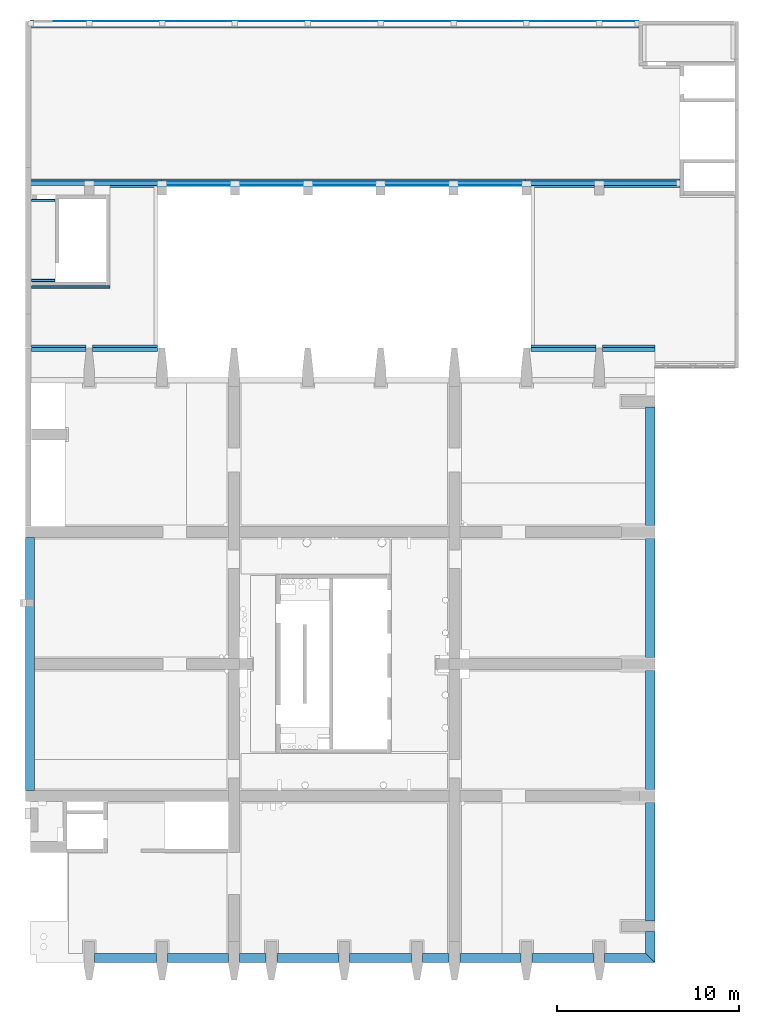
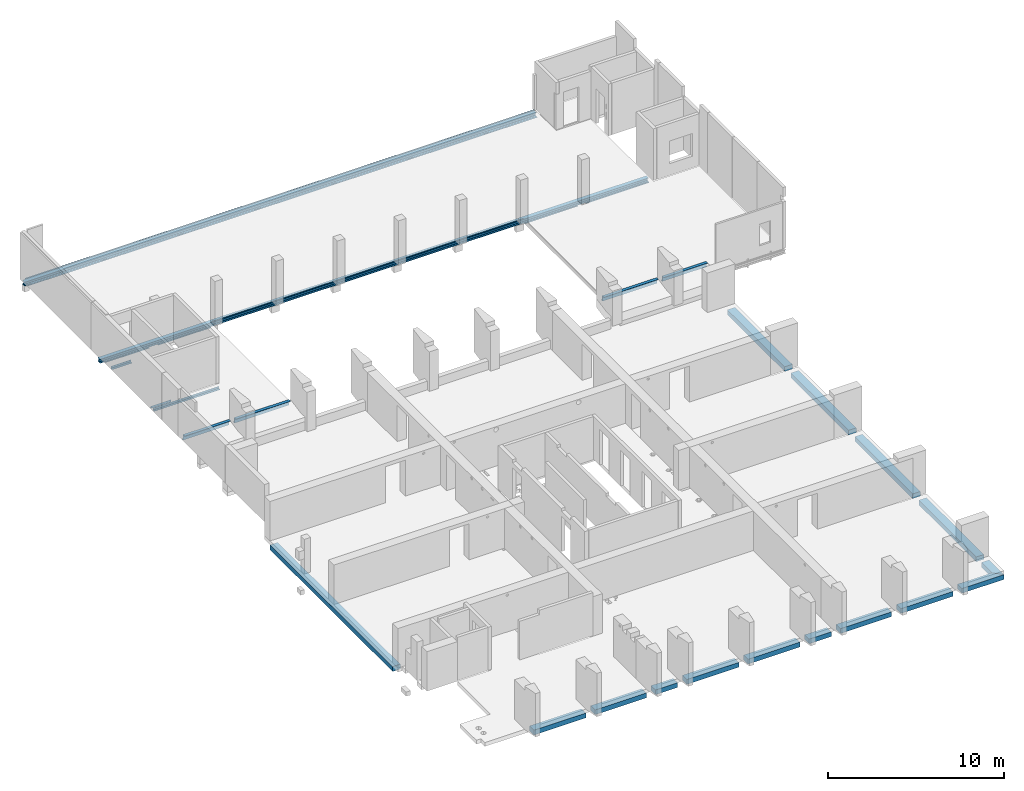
# One storey, part 2 of 10: 16 beams.
"""IFC2X3 building model written with IfcOpenShell, lengths in millimetres."""

from ifc_helpers import new_model, entity, si_unit, converted_unit, derived_unit, direction, frame, frame_2d, origin, origin_2d_with_axis, place, context, subcontext, project, spatial, polyline, circle_curve, parameter, trimmed, segment, composite_curve, rectangle, outline, extrude, source, transform, mapped, material, type_object, type_shapes, element, save


model = new_model("IFC2X3")

# Units and contexts
model_context = context("Model", 3, precision=0.01, world=origin(), true_north=direction((6.12303176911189e-17, 1.0)))
body_context = subcontext(model_context, "Body", "Model", "MODEL_VIEW")
ifc_project = project(units=[si_unit("LENGTHUNIT", "METRE", prefix="MILLI"), si_unit("AREAUNIT", "SQUARE_METRE"), si_unit("VOLUMEUNIT", "CUBIC_METRE"), converted_unit("PLANEANGLEUNIT", "DEGREE", entity("IfcRatioMeasure", 0.0174532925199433), si_unit("PLANEANGLEUNIT", "RADIAN"), dimensions=[0, 0, 0, 0, 0, 0, 0]), si_unit("MASSUNIT", "GRAM", prefix="KILO"), derived_unit("MASSDENSITYUNIT", [(si_unit("MASSUNIT", "GRAM", prefix="KILO"), 1), (si_unit("LENGTHUNIT", "METRE"), -3)]), si_unit("TIMEUNIT", "SECOND"), si_unit("FREQUENCYUNIT", "HERTZ"), si_unit("THERMODYNAMICTEMPERATUREUNIT", "DEGREE_CELSIUS"), derived_unit("THERMALTRANSMITTANCEUNIT", [(si_unit("MASSUNIT", "GRAM", prefix="KILO"), 1), (si_unit("THERMODYNAMICTEMPERATUREUNIT", "KELVIN"), -1), (si_unit("TIMEUNIT", "SECOND"), -3)]), derived_unit("VOLUMETRICFLOWRATEUNIT", [(si_unit("LENGTHUNIT", "METRE"), 3), (si_unit("TIMEUNIT", "SECOND"), -1)]), si_unit("ELECTRICCURRENTUNIT", "AMPERE"), si_unit("ELECTRICVOLTAGEUNIT", "VOLT"), si_unit("POWERUNIT", "WATT"), si_unit("FORCEUNIT", "NEWTON", prefix="KILO"), si_unit("ILLUMINANCEUNIT", "LUX"), si_unit("LUMINOUSFLUXUNIT", "LUMEN"), si_unit("LUMINOUSINTENSITYUNIT", "CANDELA"), derived_unit("USERDEFINED", [(si_unit("MASSUNIT", "GRAM", prefix="KILO"), -1), (si_unit("LENGTHUNIT", "METRE"), -2), (si_unit("TIMEUNIT", "SECOND"), 3), (si_unit("LUMINOUSFLUXUNIT", "LUMEN"), 1)]), derived_unit("LINEARVELOCITYUNIT", [(si_unit("LENGTHUNIT", "METRE"), 1), (si_unit("TIMEUNIT", "SECOND"), -1)]), si_unit("PRESSUREUNIT", "PASCAL"), derived_unit("USERDEFINED", [(si_unit("LENGTHUNIT", "METRE"), -2), (si_unit("MASSUNIT", "GRAM", prefix="KILO"), 1), (si_unit("TIMEUNIT", "SECOND"), -2)])], contexts=[model_context])

# Site, building, storey
site_placement = place(None, origin())
site = spatial("IfcSite", under=ifc_project, at=site_placement, Name="Default", CompositionType="ELEMENT")
building_placement = place(site_placement, origin())
building = spatial("IfcBuilding", under=site, at=building_placement, Name="niet gebruiken", CompositionType="ELEMENT")
storey_placement = place(building_placement, frame((0.0, 0.0, 9000.0)))
storey = spatial("IfcBuildingStorey", under=building, at=storey_placement, Name="02 tweede verdieping", CompositionType="ELEMENT", Elevation=9000.00000000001)

# Beams
ifc_material_1 = material(Name="NLRS_f2_beton ihwg")
beam_type_1 = type_object("IfcBeamType", Name="500x600", PredefinedType="BEAM", material=ifc_material_1)
beam_1_placement = place(storey_placement, frame((124500.0, 24450.0, -90.0), z_axis=(0.0, 0.0, 1.0), x_axis=(0.0, -1.0, 0.0)))
element("IfcBeam", 1, at=beam_1_placement, inside=storey, type_object=beam_type_1, material=ifc_material_1, Name="NLRS_28.11_SF_WPB_betonbalk ihwg recht_gen:500x600", ObjectType="NLRS_28.11_SF_WPB_betonbalk ihwg recht_gen:500x600", context=body_context, shape_type="SweptSolid", body=[
    extrude(rectangle(XDim=329.999999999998, YDim=499.99999999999, at=frame_2d((-5.40012479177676e-13, 0.0), x_axis=(1.0, 0.0))), frame((0.0, 0.0, -435.0), z_axis=(1.0, 0.0, 0.0), x_axis=(0.0, 0.0, -1.0)), (0.0, 0.0, 1.0), 13900.0),
])
beam_type_2 = type_object("IfcBeamType", Name="500x600", PredefinedType="BEAM", material=ifc_material_1)
shared_shape_1 = source(origin(), body_context, "Body", "SweptSolid", [
    extrude(rectangle(XDim=6499.99999999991, YDim=499.99999999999, at=frame_2d((2.27373675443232e-12, -1.73230318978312e-11), x_axis=(1.0, 0.0))), frame((158550.0, 28350.0, 8310.0), z_axis=(0.0, 0.0, 1.0), x_axis=(0.0, -1.0, 0.0)), (0.0, 0.0, 1.0), 329.999999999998),
    extrude(rectangle(XDim=6500.00000000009, YDim=500.000000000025, at=frame_2d((1.13686837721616e-12, 0.0), x_axis=(1.0, 0.0))), frame((158550.0, 6650.0, 8310.0), z_axis=(0.0, 0.0, 1.0), x_axis=(0.0, 1.0, 0.0)), (0.0, 0.0, 1.0), 329.999999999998),
    extrude(outline(polyline([(-718.0, -250.0), (468.0, -250.0), (968.0, 250.0), (-718.0, 250.0), (-718.0, -250.0)])), frame((158550.0, 2082.0, 8310.0), z_axis=(0.0, 0.0, 1.0), x_axis=(0.0, -1.0, 0.0)), (0.0, 0.0, 1.0), 329.999999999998),
    extrude(rectangle(XDim=6550.0, YDim=500.000000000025, at=frame_2d((2.27373675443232e-12, 0.0), x_axis=(1.0, 0.0))), frame((158550.0, 13875.0, 8310.0), z_axis=(0.0, 0.0, 1.0), x_axis=(0.0, 1.0, 0.0)), (0.0, 0.0, 1.0), 329.999999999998),
    extrude(rectangle(XDim=6549.99999999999, YDim=500.000000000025, at=frame_2d((1.13686837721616e-12, 0.0), x_axis=(1.0, 0.0))), frame((158550.0, 21125.0, 8310.0), z_axis=(0.0, 0.0, 1.0), x_axis=(0.0, 1.0, 0.0)), (0.0, 0.0, 1.0), 329.999999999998),
])
type_shapes(beam_type_2, [shared_shape_1])
beam_2_placement = place(storey_placement, frame((0.0, 0.0, -9000.0)))
element("IfcBeam", 2, at=beam_2_placement, inside=storey, type_object=beam_type_2, material=ifc_material_1, Name="NLRS_28.11_SF_WPB_betonbalk ihwg recht_gen:500x600", ObjectType="500x600", context=body_context, shape_type="MappedRepresentation", body=[
    mapped(shared_shape_1, transform((0.0, 0.0, 0.0), scale=1.0)),
])
beam_type_3 = type_object("IfcBeamType", Name="500x600", PredefinedType="BEAM", material=ifc_material_1)
shared_shape_2 = source(origin(), body_context, "Body", "SweptSolid", [
    extrude(outline(polyline([(-1000.0, -250.0), (1250.0, -250.0), (1250.0, 250.0), (-1500.0, 250.0), (-1000.0, -250.0)])), frame((157300.0, 1364.0, 8310.0), z_axis=(0.0, 0.0, 1.0), x_axis=(-1.0, 0.0, 0.0)), (0.0, 0.0, 1.0), 329.999999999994),
    extrude(rectangle(XDim=500.0, YDim=3400.00000000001, at=frame_2d((0.0, -8.64019966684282e-12), x_axis=(1.0, 0.0))), frame((129750.0, 1364.0, 8310.0), z_axis=(0.0, 0.0, 1.0), x_axis=(0.0, 1.0, 0.0)), (0.0, 0.0, 1.0), 329.999999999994),
    extrude(rectangle(XDim=3350.0, YDim=500.0, at=frame_2d((1.72803993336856e-11, -7.105427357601e-14), x_axis=(1.0, 0.0))), frame((133725.0, 1364.0, 8310.0)), (0.0, 0.0, 1.0), 329.999999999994),
    extrude(rectangle(XDim=1450.0, YDim=500.0, at=frame_2d((8.69704308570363e-12, 0.0), x_axis=(1.0, 0.0))), frame((136725.0, 1364.0, 8310.0)), (0.0, 0.0, 1.0), 329.999999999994),
    extrude(rectangle(XDim=3399.99999999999, YDim=500.0, at=origin_2d_with_axis()), frame((139750.0, 1364.0, 8310.0)), (0.0, 0.0, 1.0), 329.999999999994),
    extrude(rectangle(XDim=3400.00000000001, YDim=500.0, at=frame_2d((8.64019966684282e-12, 0.0), x_axis=(1.0, 0.0))), frame((143750.0, 1364.0, 8310.0)), (0.0, 0.0, 1.0), 329.999999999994),
    extrude(rectangle(XDim=1449.99999999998, YDim=500.0, at=origin_2d_with_axis()), frame((146775.0, 1364.0, 8310.0)), (0.0, 0.0, 1.0), 329.999999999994),
    extrude(rectangle(XDim=3350.0, YDim=500.0, at=frame_2d((0.0, -1.27897692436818e-13), x_axis=(1.0, 0.0))), frame((149775.0, 1364.0, 8310.0), z_axis=(0.0, 0.0, 1.0), x_axis=(-1.0, 0.0, 0.0)), (0.0, 0.0, 1.0), 329.999999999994),
    extrude(rectangle(XDim=3400.00000000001, YDim=500.0, at=frame_2d((8.64019966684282e-12, 7.105427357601e-14), x_axis=(1.0, 0.0))), frame((153750.0, 1364.0, 8310.0)), (0.0, 0.0, 1.0), 329.999999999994),
])
type_shapes(beam_type_3, [shared_shape_2])
beam_3_placement = place(storey_placement, frame((0.0, 0.0, -9000.0)))
element("IfcBeam", 3, at=beam_3_placement, inside=storey, type_object=beam_type_3, material=ifc_material_1, Name="NLRS_28.11_SF_WPB_betonbalk ihwg recht_gen:500x600", ObjectType="500x600", context=body_context, shape_type="MappedRepresentation", body=[
    mapped(shared_shape_2, transform((0.0, 0.0, 0.0), scale=1.0)),
])
ifc_material_2 = material(Name="NLRS_h2_staal")
beam_type_4 = type_object("IfcBeamType", Name="ligger SFB250 HE260A+355x12", PredefinedType="BEAM", material=ifc_material_2)
shared_shape_3 = source(origin(), body_context, "Body", "SweptSolid", [
    extrude(outline(polyline([(-205.0, -11223.3333333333), (55.0, -11223.3333333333), (55.0, -11053.3333333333), (150.0, -11053.3333333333), (150.0, 22276.6666666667), (-205.0, 22276.6666666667), (-205.0, -11223.3333333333)])), frame((135623.333333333, 52570.0, 9468.0), z_axis=(0.0, 0.0, 1.0), x_axis=(0.0, -1.0, 0.0)), (0.0, 0.0, 1.0), 11.9999999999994),
    extrude(outline(composite_curve([segment(polyline([(112.5, -130.0), (125.0, -130.0)]), True, "CONTINUOUS"), segment(polyline([(125.0, -130.0), (125.0, 130.0)]), True, "CONTINUOUS"), segment(polyline([(125.0, 130.0), (112.5, 130.0)]), True, "CONTINUOUS"), segment(polyline([(112.5, 130.0), (112.5, 27.75)]), True, "CONTINUOUS"), segment(trimmed(circle_curve(frame_2d((88.5, 27.75), x_axis=(0.0, -1.0)), 24.0), [parameter(3.05333249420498e-13)], [parameter(90.0000000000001)], True, "PARAMETER"), False, "CONTINUOUS"), segment(polyline([(88.5, 3.75000000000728), (-88.5, 3.75000000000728)]), True, "CONTINUOUS"), segment(trimmed(circle_curve(frame_2d((-88.5, 27.75), x_axis=(-1.0, 0.0)), 24.0), [parameter(3.56222124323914e-13)], [parameter(90.0000000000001)], True, "PARAMETER"), False, "CONTINUOUS"), segment(polyline([(-112.5, 27.75), (-112.5, 130.0)]), True, "CONTINUOUS"), segment(polyline([(-112.5, 130.0), (-125.0, 130.0)]), True, "CONTINUOUS"), segment(polyline([(-125.0, 130.0), (-125.0, -130.0)]), True, "CONTINUOUS"), segment(polyline([(-125.0, -130.0), (-112.5, -130.0)]), True, "CONTINUOUS"), segment(polyline([(-112.5, -130.0), (-112.5, -27.7499999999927)]), True, "CONTINUOUS"), segment(trimmed(circle_curve(frame_2d((-88.5, -27.7499999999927), x_axis=(0.0, 1.0)), 24.0), [parameter(0.0)], [parameter(90.0000000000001)], True, "PARAMETER"), False, "CONTINUOUS"), segment(polyline([(-88.5, -3.75), (88.5, -3.75)]), True, "CONTINUOUS"), segment(trimmed(circle_curve(frame_2d((88.5, -27.7499999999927), x_axis=(1.0, 0.0)), 24.0), [parameter(0.0)], [parameter(90.0000000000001)], True, "PARAMETER"), False, "CONTINUOUS"), segment(polyline([(112.5, -27.7499999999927), (112.5, -130.0)]), True, "CONTINUOUS")], self_intersect=False)), frame((124400.0, 52645.0, 9605.0), z_axis=(1.0, 0.0, 0.0), x_axis=(0.0, 0.0, 1.0)), (0.0, 0.0, 1.0), 33500.0),
])
type_shapes(beam_type_4, [shared_shape_3])
beam_4_placement = place(storey_placement, frame((0.0, 0.0, -9000.0)))
element("IfcBeam", 4, at=beam_4_placement, inside=storey, type_object=beam_type_4, material=ifc_material_2, Name="NLRS_28.11_SF_WPB_stalen ligger SFB_gen_BSc:ligger SFB250 HE260A+355x12", ObjectType="ligger SFB250 HE260A+355x12", context=body_context, shape_type="MappedRepresentation", body=[
    mapped(shared_shape_3, transform((0.0, 0.0, 0.0), scale=1.0)),
])
beam_type_5 = type_object("IfcBeamType", Name="ligger SFB260 HE260B+375x12", PredefinedType="BEAM", material=ifc_material_2)
shared_shape_4 = source(origin(), body_context, "Body", "SweptSolid", [
    extrude(outline(composite_curve([segment(polyline([(-130.0, -112.5), (-130.0, -130.0)]), True, "CONTINUOUS"), segment(polyline([(-130.0, -130.0), (130.0, -130.0)]), True, "CONTINUOUS"), segment(polyline([(130.0, -130.0), (130.0, -112.5)]), True, "CONTINUOUS"), segment(polyline([(130.0, -112.5), (29.0, -112.5)]), True, "CONTINUOUS"), segment(trimmed(circle_curve(frame_2d((29.0, -88.5), x_axis=(1.0, 0.0)), 24.0), [parameter(180.000000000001)], [parameter(270.0)], True, "PARAMETER"), False, "CONTINUOUS"), segment(polyline([(5.0, -88.5), (5.0, 88.5)]), True, "CONTINUOUS"), segment(trimmed(circle_curve(frame_2d((29.0, 88.5), x_axis=(1.0, 0.0)), 24.0), [parameter(90.0000000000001)], [parameter(180.0)], True, "PARAMETER"), False, "CONTINUOUS"), segment(polyline([(29.0, 112.5), (130.0, 112.5)]), True, "CONTINUOUS"), segment(polyline([(130.0, 112.5), (130.0, 130.0)]), True, "CONTINUOUS"), segment(polyline([(130.0, 130.0), (-130.0, 130.0)]), True, "CONTINUOUS"), segment(polyline([(-130.0, 130.0), (-130.0, 112.5)]), True, "CONTINUOUS"), segment(polyline([(-130.0, 112.5), (-29.0, 112.5)]), True, "CONTINUOUS"), segment(trimmed(circle_curve(frame_2d((-29.0, 88.5), x_axis=(1.0, 0.0)), 24.0), [parameter(3.56222124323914e-13)], [parameter(90.0000000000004)], True, "PARAMETER"), False, "CONTINUOUS"), segment(polyline([(-5.0, 88.5), (-5.0, -88.5)]), True, "CONTINUOUS"), segment(trimmed(circle_curve(frame_2d((-29.0, -88.5), x_axis=(1.0, 0.0)), 24.0), [parameter(270.0)], [parameter(3.56222124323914e-13)], True, "PARAMETER"), False, "CONTINUOUS"), segment(polyline([(-29.0, -112.5), (-130.0, -112.5)]), True, "CONTINUOUS")], self_intersect=False)), frame((131760.0, 43890.0, 9610.0), z_axis=(-1.0, 0.0, 0.0), x_axis=(0.0, 1.0, 0.0)), (0.0, 0.0, -1.0), 19980.0),
    extrude(rectangle(XDim=19980.0, YDim=375.000000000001, at=origin_2d_with_axis()), frame((141750.0, 43947.5, 9468.0), z_axis=(0.0, 0.0, 1.0), x_axis=(-1.0, 0.0, 0.0)), (0.0, 0.0, 1.0), 11.9999999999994),
])
type_shapes(beam_type_5, [shared_shape_4])
beam_5_placement = place(storey_placement, frame((0.0, 0.0, -9000.0)))
element("IfcBeam", 5, at=beam_5_placement, inside=storey, type_object=beam_type_5, material=ifc_material_2, Name="NLRS_28.11_SF_WPB_stalen ligger SFB_gen_BSc:ligger SFB260 HE260B+375x12", ObjectType="ligger SFB260 HE260B+375x12", context=body_context, shape_type="MappedRepresentation", body=[
    mapped(shared_shape_4, transform((0.0, 0.0, 0.0), scale=1.0)),
])
beam_type_6 = type_object("IfcBeamType", Name="NLRS_28.11_SF_WPB_stalen ligger hoekprofiel gelijkzijdig_gen:ligger gelijzijdig hoekprofiel LEQU_150x150x15", PredefinedType="BEAM")
beam_6_placement = place(storey_placement, frame((128880.0, 38227.5000000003, 542.0), z_axis=(0.0, 0.0, 1.0), x_axis=(-1.0, 0.0, 0.0)))
element("IfcBeam", 6, at=beam_6_placement, inside=storey, type_object=beam_type_6, material=ifc_material_2, Name="NLRS_28.11_SF_WPB_stalen ligger hoekprofiel gelijkzijdig_gen:ligger gelijzijdig hoekprofiel LEQU_150x150x15", ObjectType="NLRS_28.11_SF_WPB_stalen ligger hoekprofiel gelijkzijdig_gen:ligger gelijzijdig hoekprofiel LEQU_150x150x15", context=body_context, shape_type="SweptSolid", body=[
    extrude(outline(composite_curve([segment(polyline([(-93.3333333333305, -56.6666666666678), (56.6666666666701, -56.6666666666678)]), True, "CONTINUOUS"), segment(polyline([(56.6666666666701, -56.6666666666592), (56.6666666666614, 93.3333333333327)]), True, "CONTINUOUS"), segment(polyline([(56.6666666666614, 93.3333333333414), (49.6666666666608, 93.3333333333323)]), True, "CONTINUOUS"), segment(trimmed(circle_curve(frame_2d((49.6666666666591, 85.3333333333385), x_axis=(0.0, 1.0)), 7.99999999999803), [parameter(0.0)], [parameter(90.0000000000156)], True, "PARAMETER"), True, "CONTINUOUS"), segment(polyline([(41.666666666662, 85.333333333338), (41.6666666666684, -25.6666666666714)]), True, "CONTINUOUS"), segment(trimmed(circle_curve(frame_2d((25.6666666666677, -25.6666666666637), x_axis=(1.0, 0.0)), 16.0000000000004), [parameter(270.0)], [parameter(0.0)], True, "PARAMETER"), False, "CONTINUOUS"), segment(polyline([(25.6666666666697, -41.66666666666), (-85.333333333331, -41.6666666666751)]), True, "CONTINUOUS"), segment(trimmed(circle_curve(frame_2d((-85.3333333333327, -49.666666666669), x_axis=(0.0, 1.0)), 7.99999999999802), [parameter(0.0)], [parameter(90.0000000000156)], True, "PARAMETER"), True, "CONTINUOUS"), segment(polyline([(-93.3333333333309, -49.6666666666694), (-93.3333333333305, -56.6666666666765)]), True, "CONTINUOUS")], self_intersect=False)), frame((0.0, 14.1666666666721, -18.3333333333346), z_axis=(1.0, 0.0, 0.0), x_axis=(0.0, 0.0, -1.0)), (0.0, 0.0, 1.0), 4310.00000000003),
])
beam_7_placement = place(storey_placement, frame((124570.0, 42987.5, 542.0)))
element("IfcBeam", 7, at=beam_7_placement, inside=storey, type_object=beam_type_6, material=ifc_material_2, Name="NLRS_28.11_SF_WPB_stalen ligger hoekprofiel gelijkzijdig_gen:ligger gelijzijdig hoekprofiel LEQU_150x150x15", ObjectType="NLRS_28.11_SF_WPB_stalen ligger hoekprofiel gelijkzijdig_gen:ligger gelijzijdig hoekprofiel LEQU_150x150x15", context=body_context, shape_type="SweptSolid", body=[
    extrude(outline(composite_curve([segment(polyline([(49.6666666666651, -93.3333333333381), (56.6666666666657, -93.3333333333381)]), True, "CONTINUOUS"), segment(polyline([(56.6666666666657, -93.3333333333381), (56.6666666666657, 56.6666666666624)]), True, "CONTINUOUS"), segment(polyline([(56.6666666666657, 56.6666666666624), (-93.3333333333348, 56.6666666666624)]), True, "CONTINUOUS"), segment(polyline([(-93.3333333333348, 56.6666666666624), (-93.3333333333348, 49.666666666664)]), True, "CONTINUOUS"), segment(trimmed(circle_curve(frame_2d((-85.3333333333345, 49.666666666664), x_axis=(-1.0, 0.0)), 7.99999999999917), [parameter(0.0)], [parameter(90.0000000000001)], True, "PARAMETER"), True, "CONTINUOUS"), segment(polyline([(-85.3333333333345, 41.6666666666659), (25.6666666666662, 41.6666666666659)]), True, "CONTINUOUS"), segment(trimmed(circle_curve(frame_2d((25.6666666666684, 25.6666666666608), x_axis=(0.0, 1.0)), 15.9999999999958), [parameter(269.999999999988)], [parameter(0.0)], True, "PARAMETER"), False, "CONTINUOUS"), segment(polyline([(41.6666666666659, 25.6666666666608), (41.6666666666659, -85.3333333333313)]), True, "CONTINUOUS"), segment(trimmed(circle_curve(frame_2d((49.6666666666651, -85.3333333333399), x_axis=(-1.0, 0.0)), 7.99999999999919), [parameter(0.0)], [parameter(90.0000000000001)], True, "PARAMETER"), True, "CONTINUOUS")], self_intersect=False)), frame((0.0, -14.1666666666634, -18.3333333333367), z_axis=(1.0, 0.0, 0.0), x_axis=(0.0, 0.0, -1.0)), (0.0, 0.0, 1.0), 1310.00000000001),
])
beam_8_placement = place(storey_placement, frame((124570.0, 38512.5, 542.0)))
element("IfcBeam", 8, at=beam_8_placement, inside=storey, type_object=beam_type_6, material=ifc_material_2, Name="NLRS_28.11_SF_WPB_stalen ligger hoekprofiel gelijkzijdig_gen:ligger gelijzijdig hoekprofiel LEQU_150x150x15", ObjectType="NLRS_28.11_SF_WPB_stalen ligger hoekprofiel gelijkzijdig_gen:ligger gelijzijdig hoekprofiel LEQU_150x150x15", context=body_context, shape_type="SweptSolid", body=[
    extrude(outline(composite_curve([segment(polyline([(-93.3333333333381, -56.6666666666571), (56.6666666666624, -56.6666666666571)]), True, "CONTINUOUS"), segment(polyline([(56.6666666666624, -56.6666666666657), (56.6666666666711, 93.3333333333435)]), True, "CONTINUOUS"), segment(polyline([(56.6666666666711, 93.3333333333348), (49.6666666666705, 93.3333333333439)]), True, "CONTINUOUS"), segment(trimmed(circle_curve(frame_2d((49.6666666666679, 85.3333333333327), x_axis=(0.0, 1.0)), 7.99999999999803), [parameter(0.0)], [parameter(90.0000000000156)], True, "PARAMETER"), True, "CONTINUOUS"), segment(polyline([(41.6666666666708, 85.3333333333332), (41.6666666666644, -25.6666666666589)]), True, "CONTINUOUS"), segment(trimmed(circle_curve(frame_2d((25.6666666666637, -25.6666666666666), x_axis=(1.0, 0.0)), 16.0000000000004), [parameter(270.0)], [parameter(0.0)], True, "PARAMETER"), False, "CONTINUOUS"), segment(polyline([(25.6666666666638, -41.666666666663), (-85.3333333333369, -41.6666666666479)]), True, "CONTINUOUS"), segment(trimmed(circle_curve(frame_2d((-85.3333333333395, -49.6666666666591), x_axis=(0.0, 1.0)), 7.99999999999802), [parameter(0.0)], [parameter(90.0000000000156)], True, "PARAMETER"), True, "CONTINUOUS"), segment(polyline([(-93.3333333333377, -49.6666666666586), (-93.3333333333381, -56.6666666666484)]), True, "CONTINUOUS")], self_intersect=False)), frame((0.0, 14.1666666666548, -18.3333333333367), z_axis=(1.0, 0.0, 0.0), x_axis=(0.0, 0.0, -1.0)), (0.0, 0.0, 1.0), 1310.00000000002),
])
beam_type_7 = type_object("IfcBeamType", Name="NLRS_28.11_SF_WPB_stalen ligger Z-profiel_gen_BSc:ligger Z-profiel 200/15x355/15x150/15", PredefinedType="BEAM")
beam_9_placement = place(storey_placement, frame((127580.0, 34857.5, 657.499999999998), z_axis=(0.0, 0.0, 1.0), x_axis=(-1.0, 0.0, 0.0)))
element("IfcBeam", 9, at=beam_9_placement, inside=storey, type_object=beam_type_7, material=ifc_material_2, Name="NLRS_28.11_SF_WPB_stalen ligger Z-profiel_gen_BSc:ligger Z-profiel 200/15x355/15x150/15", ObjectType="NLRS_28.11_SF_WPB_stalen ligger Z-profiel_gen_BSc:ligger Z-profiel 200/15x355/15x150/15", context=body_context, shape_type="SweptSolid", body=[
    extrude(outline(polyline([(177.500000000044, -155.0), (192.500000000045, -155.0), (192.500000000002, -5.0), (-177.499999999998, -5.0), (-177.500000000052, 180.0), (-192.500000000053, 180.0), (-192.499999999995, -20.0), (177.500000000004, -20.0), (177.500000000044, -155.0)])), frame((0.0, 12.5000000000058, 0.0), z_axis=(1.0, 0.0, 0.0), x_axis=(0.0, 0.0, -1.0)), (0.0, 0.0, 1.0), 3010.00000000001),
])
beam_10_placement = place(storey_placement, frame((131500.0, 34857.5, 657.499999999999), z_axis=(0.0, 0.0, 1.0), x_axis=(-1.0, 0.0, 0.0)))
element("IfcBeam", 10, at=beam_10_placement, inside=storey, type_object=beam_type_7, material=ifc_material_2, Name="NLRS_28.11_SF_WPB_stalen ligger Z-profiel_gen_BSc:ligger Z-profiel 200/15x355/15x150/15", ObjectType="NLRS_28.11_SF_WPB_stalen ligger Z-profiel_gen_BSc:ligger Z-profiel 200/15x355/15x150/15", context=body_context, shape_type="SweptSolid", body=[
    extrude(outline(polyline([(177.500000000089, -155.0), (192.50000000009, -155.0), (192.500000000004, -5.0), (-177.499999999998, -5.0), (-177.500000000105, 180.0), (-192.500000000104, 180.0), (-192.499999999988, -20.0), (177.500000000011, -20.0), (177.500000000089, -155.0)])), frame((0.0, 12.5000000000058, 0.0), z_axis=(1.0, 0.0, 0.0), x_axis=(0.0, 0.0, -1.0)), (0.0, 0.0, 1.0), 3580.00000000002),
])
beam_11_placement = place(storey_placement, frame((155580.0, 34857.4999999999, 657.499999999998), z_axis=(0.0, 0.0, 1.0), x_axis=(-1.0, 0.0, 0.0)))
element("IfcBeam", 11, at=beam_11_placement, inside=storey, type_object=beam_type_7, material=ifc_material_2, Name="NLRS_28.11_SF_WPB_stalen ligger Z-profiel_gen_BSc:ligger Z-profiel 200/15x355/15x150/15", ObjectType="NLRS_28.11_SF_WPB_stalen ligger Z-profiel_gen_BSc:ligger Z-profiel 200/15x355/15x150/15", context=body_context, shape_type="SweptSolid", body=[
    extrude(outline(polyline([(177.500000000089, -155.0), (192.50000000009, -155.0), (192.500000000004, -5.0), (-177.499999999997, -5.0), (-177.500000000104, 180.0), (-192.500000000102, 180.0), (-192.499999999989, -20.0), (177.50000000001, -20.0), (177.500000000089, -155.0)])), frame((0.0, 12.5000000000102, 0.0), z_axis=(1.0, 0.0, 0.0), x_axis=(0.0, 0.0, -1.0)), (0.0, 0.0, 1.0), 3580.00000000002),
])
beam_12_placement = place(storey_placement, frame((158800.0, 34857.5, 657.499999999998), z_axis=(0.0, 0.0, 1.0), x_axis=(-1.0, 0.0, 0.0)))
element("IfcBeam", 12, at=beam_12_placement, inside=storey, type_object=beam_type_7, material=ifc_material_2, Name="NLRS_28.11_SF_WPB_stalen ligger Z-profiel_gen_BSc:ligger Z-profiel 200/15x355/15x150/15", ObjectType="NLRS_28.11_SF_WPB_stalen ligger Z-profiel_gen_BSc:ligger Z-profiel 200/15x355/15x150/15", context=body_context, shape_type="SweptSolid", body=[
    extrude(outline(polyline([(177.500000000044, -155.0), (192.500000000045, -155.0), (192.500000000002, -5.0), (-177.499999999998, -5.0), (-177.500000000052, 180.0), (-192.500000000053, 180.0), (-192.499999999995, -20.0), (177.500000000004, -20.0), (177.500000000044, -155.0)])), frame((0.0, 12.5000000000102, 0.0), z_axis=(1.0, 0.0, 0.0), x_axis=(0.0, 0.0, -1.0)), (0.0, 0.0, 1.0), 2879.99999999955),
])
beam_type_8 = type_object("IfcBeamType", Name="ligger SFB260 HE260B+450x12", PredefinedType="BEAM", material=ifc_material_2)
shared_shape_5 = source(origin(), body_context, "Body", "SweptSolid", [
    extrude(outline(polyline([(-3082.0, -322.0), (4088.0, -322.0), (4088.0, 128.0), (1178.0, 128.0), (1178.0, 33.0), (638.0, 33.0), (638.0, 128.0), (-2822.0, 128.0), (-2822.0, 33.0), (-3082.0, 33.0), (-3082.0, -322.0)])), frame((128658.0, 43793.0, 9468.0), z_axis=(0.0, 0.0, 1.0), x_axis=(-1.0, 0.0, 0.0)), (0.0, 0.0, 1.0), 11.9999999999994),
    extrude(outline(composite_curve([segment(polyline([(112.5, -130.0), (130.0, -130.0)]), True, "CONTINUOUS"), segment(polyline([(130.0, -130.0), (130.0, 130.0)]), True, "CONTINUOUS"), segment(polyline([(130.0, 130.0), (112.5, 130.0)]), True, "CONTINUOUS"), segment(polyline([(112.5, 130.0), (112.5, 29.0)]), True, "CONTINUOUS"), segment(trimmed(circle_curve(frame_2d((88.5, 29.0), x_axis=(0.0, 1.0)), 24.0), [parameter(180.000000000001)], [parameter(270.0)], True, "PARAMETER"), False, "CONTINUOUS"), segment(polyline([(88.5, 5.0), (-88.5, 5.0)]), True, "CONTINUOUS"), segment(trimmed(circle_curve(frame_2d((-88.5, 29.0), x_axis=(0.0, 1.0)), 24.0), [parameter(90.0000000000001)], [parameter(180.0)], True, "PARAMETER"), False, "CONTINUOUS"), segment(polyline([(-112.5, 29.0), (-112.5, 130.0)]), True, "CONTINUOUS"), segment(polyline([(-112.5, 130.0), (-130.0, 130.0)]), True, "CONTINUOUS"), segment(polyline([(-130.0, 130.0), (-130.0, -130.0)]), True, "CONTINUOUS"), segment(polyline([(-130.0, -130.0), (-112.5, -130.0)]), True, "CONTINUOUS"), segment(polyline([(-112.5, -130.0), (-112.5, -29.0)]), True, "CONTINUOUS"), segment(trimmed(circle_curve(frame_2d((-88.5, -29.0), x_axis=(0.0, 1.0)), 24.0), [parameter(3.56222124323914e-13)], [parameter(90.0000000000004)], True, "PARAMETER"), False, "CONTINUOUS"), segment(polyline([(-88.5, -5.0), (88.5, -5.0)]), True, "CONTINUOUS"), segment(trimmed(circle_curve(frame_2d((88.5, -29.0), x_axis=(0.0, 1.0)), 24.0), [parameter(270.0)], [parameter(3.56222124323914e-13)], True, "PARAMETER"), False, "CONTINUOUS"), segment(polyline([(112.5, -29.0), (112.5, -130.0)]), True, "CONTINUOUS")], self_intersect=False)), frame((124270.0, 43890.0, 9610.0), z_axis=(1.0, 0.0, 0.0), x_axis=(0.0, 0.0, 1.0)), (0.0, 0.0, 1.0), 7470.0),
])
type_shapes(beam_type_8, [shared_shape_5])
beam_13_placement = place(storey_placement, frame((0.0, 0.0, -9000.0)))
element("IfcBeam", 13, at=beam_13_placement, inside=storey, type_object=beam_type_8, material=ifc_material_2, Name="NLRS_28.11_SF_WPB_stalen ligger SFB_gen_BSc:ligger SFB260 HE260B+450x12", ObjectType="ligger SFB260 HE260B+450x12", context=body_context, shape_type="MappedRepresentation", body=[
    mapped(shared_shape_5, transform((0.0, 0.0, 0.0), scale=1.0)),
])
beam_type_9 = type_object("IfcBeamType", Name="ligger SFB260 HE260B+450x12", PredefinedType="BEAM", material=ifc_material_2)
shared_shape_6 = source(origin(), body_context, "Body", "SweptSolid", [
    extrude(outline(polyline([(-5080.0, -322.0), (3330.0, -322.0), (3330.0, 33.0), (3070.0, 33.0), (3070.0, 128.0), (-390.0, 128.0), (-390.0, 33.0), (-930.0, 33.0), (-930.0, 128.0), (-5080.0, 128.0), (-5080.0, -322.0)])), frame((155090.0, 43793.0, 9468.0), z_axis=(0.0, 0.0, 1.0), x_axis=(-1.0, 0.0, 0.0)), (0.0, 0.0, 1.0), 11.9999999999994),
    extrude(outline(composite_curve([segment(polyline([(-130.0, -112.499999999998), (-130.0, -130.0)]), True, "CONTINUOUS"), segment(polyline([(-130.0, -130.0), (130.0, -130.0)]), True, "CONTINUOUS"), segment(polyline([(130.0, -130.0), (130.0, -112.499999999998)]), True, "CONTINUOUS"), segment(polyline([(130.0, -112.499999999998), (29.0, -112.499999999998)]), True, "CONTINUOUS"), segment(trimmed(circle_curve(frame_2d((29.0, -88.4999999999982), x_axis=(1.0, 0.0)), 24.0), [parameter(180.000000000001)], [parameter(270.0)], True, "PARAMETER"), False, "CONTINUOUS"), segment(polyline([(5.0, -88.4999999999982), (5.0, 88.5000000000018)]), True, "CONTINUOUS"), segment(trimmed(circle_curve(frame_2d((29.0, 88.5000000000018), x_axis=(1.0, 0.0)), 24.0), [parameter(90.0000000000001)], [parameter(180.0)], True, "PARAMETER"), False, "CONTINUOUS"), segment(polyline([(29.0, 112.500000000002), (130.0, 112.500000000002)]), True, "CONTINUOUS"), segment(polyline([(130.0, 112.500000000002), (130.0, 130.0)]), True, "CONTINUOUS"), segment(polyline([(130.0, 130.0), (-130.0, 130.0)]), True, "CONTINUOUS"), segment(polyline([(-130.0, 130.0), (-130.0, 112.500000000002)]), True, "CONTINUOUS"), segment(polyline([(-130.0, 112.500000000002), (-29.0, 112.500000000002)]), True, "CONTINUOUS"), segment(trimmed(circle_curve(frame_2d((-29.0, 88.5000000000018), x_axis=(1.0, 0.0)), 24.0), [parameter(3.56222124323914e-13)], [parameter(90.0000000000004)], True, "PARAMETER"), False, "CONTINUOUS"), segment(polyline([(-5.0, 88.5000000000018), (-5.0, -88.4999999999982)]), True, "CONTINUOUS"), segment(trimmed(circle_curve(frame_2d((-29.0, -88.4999999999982), x_axis=(1.0, 0.0)), 24.0), [parameter(270.0)], [parameter(3.56222124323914e-13)], True, "PARAMETER"), False, "CONTINUOUS"), segment(polyline([(-29.0, -112.499999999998), (-130.0, -112.499999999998)]), True, "CONTINUOUS")], self_intersect=False)), frame((151760.0, 43890.0, 9610.0), z_axis=(-1.0, 0.0, 0.0), x_axis=(0.0, 1.0, 0.0)), (0.0, 0.0, -1.0), 8410.00000000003),
])
type_shapes(beam_type_9, [shared_shape_6])
beam_14_placement = place(storey_placement, frame((0.0, 0.0, -9000.0)))
element("IfcBeam", 14, at=beam_14_placement, inside=storey, type_object=beam_type_9, material=ifc_material_2, Name="NLRS_28.11_SF_WPB_stalen ligger SFB_gen_BSc:ligger SFB260 HE260B+450x12", ObjectType="ligger SFB260 HE260B+450x12", context=body_context, shape_type="MappedRepresentation", body=[
    mapped(shared_shape_6, transform((0.0, 0.0, 0.0), scale=1.0)),
])
beam_type_10 = type_object("IfcBeamType", Name="ligger stripstaal RECT_70x5", PredefinedType="BEAM", material=ifc_material_2)
shared_shape_7 = source(origin(), body_context, "Body", "SweptSolid", [
    extrude(rectangle(XDim=20500.0, YDim=4.99999999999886, at=frame_2d((9.09494701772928e-12, 4.33142410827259e-12), x_axis=(1.0, 0.0))), frame((141750.0, 43762.5, 9740.0)), (0.0, 0.0, 1.0), 70.0000000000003),
    extrude(rectangle(XDim=20500.0, YDim=4.99999999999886, at=frame_2d((9.09494701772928e-12, 4.33142410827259e-12), x_axis=(1.0, 0.0))), frame((141750.0, 43762.5, 9740.0)), (0.0, 0.0, 1.0), 70.0000000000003),
])
type_shapes(beam_type_10, [shared_shape_7])
beam_15_placement = place(storey_placement, frame((0.0, 0.0, -9000.0)))
element("IfcBeam", 15, at=beam_15_placement, inside=storey, type_object=beam_type_10, material=ifc_material_2, Name="NLRS_28.11_SF_WPB_stalen ligger stripstaal_gen:ligger stripstaal RECT_70x5", ObjectType="ligger stripstaal RECT_70x5", context=body_context, shape_type="MappedRepresentation", body=[
    mapped(shared_shape_7, transform((0.0, 0.0, 0.0), scale=1.0)),
])
beam_type_11 = type_object("IfcBeamType", Name="ligger stripstaal RECT_80x5", PredefinedType="BEAM", material=ifc_material_2)
shared_shape_8 = source(origin(), body_context, "Body", "SweptSolid", [
    extrude(rectangle(XDim=33330.0, YDim=4.99999999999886, at=frame_2d((-1.81898940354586e-11, 0.0), x_axis=(1.0, 0.0))), frame((141235.0, 52772.5, 9730.0)), (0.0, 0.0, 1.0), 79.9999999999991),
    extrude(rectangle(XDim=33330.0, YDim=4.99999999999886, at=frame_2d((-1.81898940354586e-11, 0.0), x_axis=(1.0, 0.0))), frame((141235.0, 52772.5, 9730.0)), (0.0, 0.0, 1.0), 79.9999999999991),
])
type_shapes(beam_type_11, [shared_shape_8])
beam_16_placement = place(storey_placement, frame((0.0, 0.0, -9000.0)))
element("IfcBeam", 16, at=beam_16_placement, inside=storey, type_object=beam_type_11, material=ifc_material_2, Name="NLRS_28.11_SF_WPB_stalen ligger stripstaal_gen:ligger stripstaal RECT_80x5", ObjectType="ligger stripstaal RECT_80x5", context=body_context, shape_type="MappedRepresentation", body=[
    mapped(shared_shape_8, transform((0.0, 0.0, 0.0), scale=1.0)),
])

save(model, "model.ifc")
